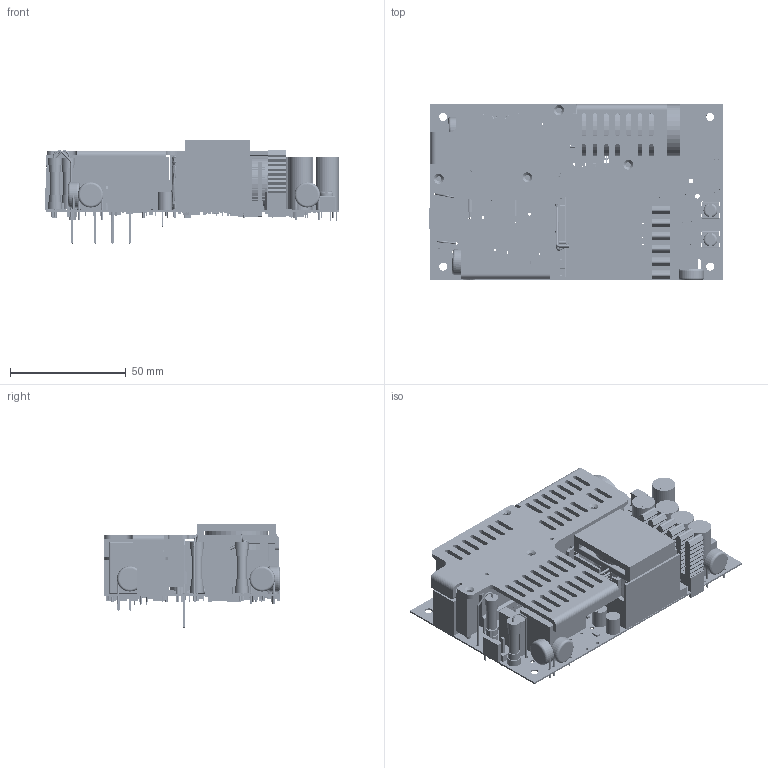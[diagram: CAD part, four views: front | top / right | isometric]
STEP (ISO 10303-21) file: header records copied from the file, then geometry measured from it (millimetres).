
FILE_DESCRIPTION(('Creo Elements/Direct Modeling STEP Export'),'2;1');
FILE_NAME('LOP-500.stp','2023-11-29T10:14:19',(''),(''),'PTC Creo Elements/Direct Modeling STEP processor for AP214 (Solid Model)','PTC Creo Elements/Direct Modeling 19.0E 27-Jun-2016 (C) Parametric Technology GmbH','');
FILE_SCHEMA(('AUTOMOTIVE_DESIGN { 1 0 10303 214 1 1 1 1 }'));
Length unit declared in the file: millimetre
Products named in the file (667): PQ342824_CORE_PRT_PRT_PR--22490.PRT; PQ342824_CORE_PRT_PRT_PR--22820.ASM; PQ342824_CORE_PRT_PRT_PR--23100.ASM; PQ342824-M_PRT_1_PRT_PRT--91910.PRT; PQ342824-M_PRT_1_PRT_PRT--92240.ASM; 0_7CP___PRT_9_1_PRT_PRT_P-93250.PRT; 0_7CP___PRT_9_1_PRT_PRT_P-93580.ASM; 0_7CP___PRT_9_1_PRT_PRT_--94590.PRT; 0_7CP___PRT_9_1_PRT_PRT_--94920.ASM; 0_7CP___PRT_9_1_PRT_PRT_--95930.PRT; 0_7CP___PRT_9_1_PRT_PRT_--96260.ASM; 0_7CP___PRT_9_1_PRT_PRT_--97270.PRT; 0_7CP___PRT_9_1_PRT_PRT_--97600.ASM; 0_7CP___PRT_7_1_PRT_PRT_P-98610.PRT; 0_7CP___PRT_7_1_PRT_PRT_P-98940.ASM; 0_7CP___PRT_7_1_PRT_PRT_--99950.PRT; 0_7CP___PRT_7_1_PRT_PRT_-100280.ASM; 0_7CP___PRT_6_1_PRT_PRT_-101290.PRT; 0_7CP___PRT_6_1_PRT_PRT_-101620.ASM; 0_7CP___PRT_6_1_PRT_PRT_-102630.PRT; 0_7CP___PRT_6_1_PRT_PRT_-102960.ASM; 0_7CP___PRT_5_1_PRT_PRT_-103970.PRT; 0_7CP___PRT_5_1_PRT_PRT_-104300.ASM; 0_7CP___PRT_5_1_PRT_PRT_-105310.PRT; 0_7CP___PRT_5_1_PRT_PRT_-105640.ASM; 0_7CP___PRT_1_PRT_PRT_PR-106650.PRT; 0_7CP___PRT_1_PRT_PRT_PR-106980.ASM; 0_7CP___PRT_1_PRT_PRT_PR-107990.PRT; 0_7CP___PRT_1_PRT_PRT_PR-108320.ASM; VRY-3428-20230627_STP_ASM_ASM_A.ASM; VRY-3428-20230714_STP_ASM_ASM.ASM; VRY-3428-20230714_STP_ASM.ASM; ____STP.ASM; SZ915-R1X.1; _X2_88C5914D_X0_3_1_PRT_PRT.PRT; _X2_96F64EF6_X0_1_1_1_PR-131330.PRT; _X2_94DC7247_X0_-1_1_ASM_ASM_1.ASM; PIN_X2_811A_X0__PRT_PRT.PRT; _X2_94DC6761_X0_1_1_1_PRT_PRT.PRT; _X2_94DC6761_X0_1_1_PRT_PRT.PRT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
Assembly tree (892 placements, depth 8):
  ____STP.ASM
    VRY-3428-20230714_STP_ASM.ASM
      VRY-3428-20230714_STP_ASM_ASM.ASM
        VRY-3428-20230627_STP_ASM_ASM_A.ASM
          0_7CP___PRT_1_PRT_PRT_PR-108320.ASM
            0_7CP___PRT_1_PRT_PRT_PR-107990.PRT
          0_7CP___PRT_1_PRT_PRT_PR-106980.ASM
            0_7CP___PRT_1_PRT_PRT_PR-106650.PRT
          0_7CP___PRT_5_1_PRT_PRT_-105640.ASM
            0_7CP___PRT_5_1_PRT_PRT_-105310.PRT
          0_7CP___PRT_5_1_PRT_PRT_-104300.ASM
            0_7CP___PRT_5_1_PRT_PRT_-103970.PRT
          0_7CP___PRT_6_1_PRT_PRT_-102960.ASM
            0_7CP___PRT_6_1_PRT_PRT_-102630.PRT
          0_7CP___PRT_6_1_PRT_PRT_-101620.ASM
            0_7CP___PRT_6_1_PRT_PRT_-101290.PRT
          0_7CP___PRT_7_1_PRT_PRT_-100280.ASM
            0_7CP___PRT_7_1_PRT_PRT_--99950.PRT
          0_7CP___PRT_7_1_PRT_PRT_P-98940.ASM
            0_7CP___PRT_7_1_PRT_PRT_P-98610.PRT
          0_7CP___PRT_9_1_PRT_PRT_--97600.ASM
            0_7CP___PRT_9_1_PRT_PRT_--97270.PRT
          0_7CP___PRT_9_1_PRT_PRT_--96260.ASM
            0_7CP___PRT_9_1_PRT_PRT_--95930.PRT
          0_7CP___PRT_9_1_PRT_PRT_--94920.ASM
            0_7CP___PRT_9_1_PRT_PRT_--94590.PRT
          0_7CP___PRT_9_1_PRT_PRT_P-93580.ASM
            0_7CP___PRT_9_1_PRT_PRT_P-93250.PRT
          PQ342824-M_PRT_1_PRT_PRT--92240.ASM
            PQ342824-M_PRT_1_PRT_PRT--91910.PRT
          PQ342824_CORE_PRT_PRT_PR--23100.ASM
            PQ342824_CORE_PRT_PRT_PR--22490.PRT
          PQ342824_CORE_PRT_PRT_PR--22820.ASM
            PQ342824_CORE_PRT_PRT_PR--22490.PRT
  SZ915-R1X.1
    SZ915-R1X.1
  LOP-500___.stp
    LOP-500____STP.ASM
      ___STP_1_ASM.ASM
        _X2_88C5914D_X0_1_ASM_ASM.ASM
          _X2_51FA7EBF_X0_1_1_1_1_PRT_PRT.PRT
          _X2_51FA7EBF_X0_1_1_PRT_PRT.PRT
          _X2_51FA7EBF_X0_1_PRT_PRT.PRT
          _X2_51FA7EBF_X0_1_1_1_PRT_PRT.PRT
      ___STP_ASM.ASM
        ___STP_ASM_ASM.ASM
          _X2_4E0B58F3_X0__1_ASM_ASM_ASM.ASM
            _X2_78C182AF_X0_COVER_ASM_ASM_A.ASM
              _X2_96F64EF6_X0_1-101730_PRT_PR.PRT
      LOP-500____STP_ASM.ASM
        LOP-600_X2_53D8538B5668_X0_24V_.ASM
          _X2_53D8538B5668_X0_600_1_ASM_A.ASM
            _X2_53D8538B5668_X0__ASM_ASM_AS.ASM
              _X2_78C182AF_X0_COVER_PRT_PRT.PRT
            ZONGTU_ASM_ASM.ASM
              _X2_7ED57EC4_X0_-11240_ASM_ASM.ASM
                _X2_7ED57EC4_X0_-2160_PRT_PRT.PRT
                _X2_7ED57EC4_X0__1_PRT_PRT.PRT
                _X2_7ED57EC4_X0__2_PRT_PRT.PRT
                _X2_96F64EF6_X0_1-7410_PRT_PRT.PRT
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Bounding box: 127.65 x 76.4 x 44.91 mm (x, y, z)
Volume: 122103.8 mm3; surface area: 115053.2 mm2
Topology: 620 solids, 621 shells, 12935 faces, 32780 edges, 21288 vertices
Faces by surface type: plane 7371, extrusion 2944, cylinder 1934, sphere 450, torus 174, cone 50, bspline 12
Entity records: 238617 total; most frequent: CARTESIAN_POINT 63062, ORIENTED_EDGE 27528, DIRECTION 25622, EDGE_CURVE 13764, VECTOR 10100, LINE 9379, VERTEX_POINT 9017, AXIS2_PLACEMENT_3D 7761
